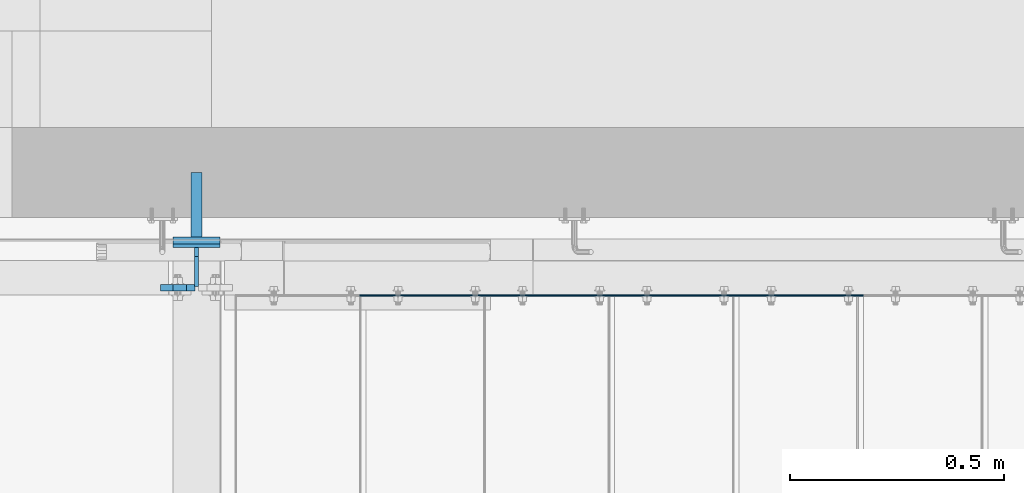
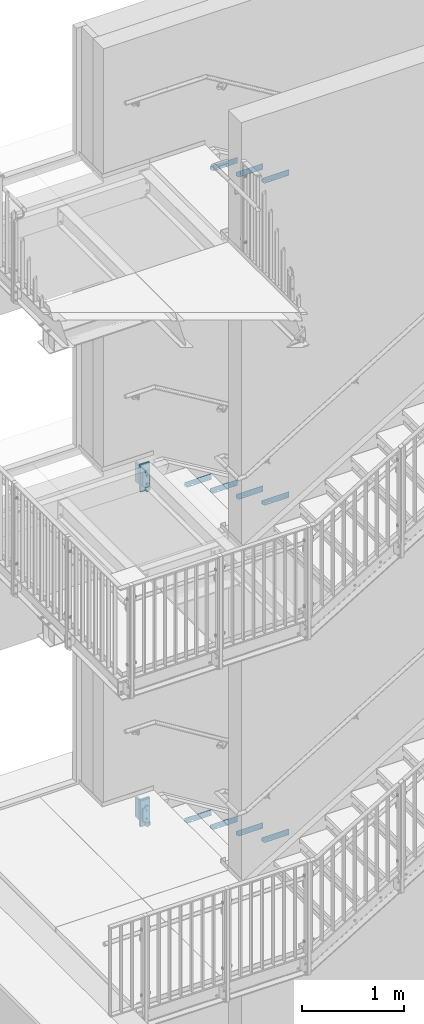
# One storey, part 58 of 410: 19 plates, 40 openings.
"""IFC2X3 building model written with IfcOpenShell, lengths in millimetres."""

from ifc_helpers import new_model, entity, si_unit, converted_unit, point, frame, frame_2d, origin, origin_with_axes, origin_2d_with_axis, place, context, project, spatial, polyline, circle_curve, line_curve, trimmed, segment, composite_curve, circle, outline, extrude, material, layer, layer_set, element, save


model = new_model("IFC2X3")

# Units and contexts
model_context = context("Model", 3, precision=1e-09, world=origin_with_axes())
ifc_project = project(units=[si_unit("LENGTHUNIT", "METRE", prefix="MILLI"), si_unit("AREAUNIT", "SQUARE_METRE"), si_unit("VOLUMEUNIT", "CUBIC_METRE"), converted_unit("PLANEANGLEUNIT", "DEGREE", entity("IfcPlaneAngleMeasure", 0.01745329), si_unit("PLANEANGLEUNIT", "RADIAN"), dimensions=[0, 0, 0, 0, 0, 0, 0])], contexts=[model_context])

# Site, building, storey
site_placement = place(None, origin_with_axes())
site = spatial("IfcSite", under=ifc_project, at=site_placement, Name="mKR Teilneubau & Sanierung BA1 - Ostfildern", CompositionType="ELEMENT")
building_placement = place(site_placement, origin_with_axes())
building = spatial("IfcBuilding", under=site, at=building_placement, Name="Struktur 1", CompositionType="ELEMENT")
storey_placement = place(building_placement, origin_with_axes())
storey = spatial("IfcBuildingStorey", under=building, at=storey_placement, Name="Default Storey", CompositionType="ELEMENT", Elevation=0.0)

# Plate, openings
ifc_material = material(Name="S235JR")
ifc_layer_1 = layer(ifc_material, 3.0)
ifc_layer_set_1 = layer_set([ifc_layer_1], Name="S235JR")
plate_1_placement = place(None, frame((-545.0, 18436.999999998, 7150.0), z_axis=(0.0, 1.0, 0.0), x_axis=(0.0, 0.0, -1.0)))
plate_1 = element("IfcPlate", 1, at=plate_1_placement, inside=storey, material=ifc_layer_set_1, Name="Grate_Step#3", ObjectType="Grate_Step#3", context=model_context, shape_type="SweptSolid", body=[
    extrude(outline(polyline([(0.0, 0.0), (70.0, 0.0), (70.0, 275.0), (40.0, 305.0), (0.0, 305.0), (0.0, 0.0)])), origin_with_axes(), (0.0, 0.0, 1.0), 3.0),
])
opening_1_placement = place(plate_1_placement, frame((55.0, 35.0, -0.5), z_axis=(0.0, 0.0, 1.0), x_axis=(0.0, 1.0, 0.0)))
element("IfcOpeningElement", 2, at=opening_1_placement, cuts=plate_1, ObjectType="Opening", context=model_context, shape_type="SweptSolid", body=[
    extrude(circle(Radius=7.001, at=origin_2d_with_axis()), origin(), (0.0, 0.0, 1.0), 4.0),
])
opening_2_placement = place(plate_1_placement, frame((55.0, 215.0, -0.5), z_axis=(0.0, 0.0, 1.0), x_axis=(0.0, 1.0, 0.0)))
element("IfcOpeningElement", 3, at=opening_2_placement, cuts=plate_1, ObjectType="Opening", context=model_context, shape_type="SweptSolid", body=[
    extrude(outline(composite_curve([segment(trimmed(line_curve((-9.5, -7.001), (1.0, 0.0), 19.0), [point((-9.5, -7.001))], [point((9.5, -7.001))], True, "CARTESIAN"), True, "CONTINUOUS"), segment(trimmed(circle_curve(frame_2d((9.5, 0.0), x_axis=(1.0, 0.0)), 7.001), [point((9.5, -7.001))], [point((9.5, 7.001))], True, "CARTESIAN"), True, "CONTINUOUS"), segment(trimmed(line_curve((9.5, 7.001), (-1.0, 0.0), 19.0), [point((9.5, 7.001))], [point((-9.5, 7.001))], True, "CARTESIAN"), True, "CONTINUOUS"), segment(trimmed(circle_curve(frame_2d((-9.5, 0.0), x_axis=(1.0, 0.0)), 7.001), [point((-9.5, 7.001))], [point((-9.5, -7.001))], True, "CARTESIAN"), True, "CONTINUOUS")], self_intersect=False)), origin(), (0.0, 0.0, 1.0), 4.0),
])

plate_2_placement = place(None, frame((-255.0, 18436.999999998, 6975.0), z_axis=(0.0, 1.0, 0.0), x_axis=(0.0, 0.0, -1.0)))
plate_2 = element("IfcPlate", 4, at=plate_2_placement, inside=storey, material=ifc_layer_set_1, Name="Grate_Step#3", ObjectType="Grate_Step#3", context=model_context, shape_type="SweptSolid", body=[
    extrude(outline(polyline([(0.0, 0.0), (70.0, 0.0), (70.0, 275.0), (40.0, 305.0), (0.0, 305.0), (0.0, 0.0)])), origin_with_axes(), (0.0, 0.0, 1.0), 3.0),
])
opening_3_placement = place(plate_2_placement, frame((55.0, 35.0, -0.5), z_axis=(0.0, 0.0, 1.0), x_axis=(0.0, 1.0, 0.0)))
element("IfcOpeningElement", 5, at=opening_3_placement, cuts=plate_2, ObjectType="Opening", context=model_context, shape_type="SweptSolid", body=[
    extrude(circle(Radius=7.001, at=origin_2d_with_axis()), origin(), (0.0, 0.0, 1.0), 4.0),
])
opening_4_placement = place(plate_2_placement, frame((55.0, 215.0, -0.5), z_axis=(0.0, 0.0, 1.0), x_axis=(0.0, 1.0, 0.0)))
element("IfcOpeningElement", 6, at=opening_4_placement, cuts=plate_2, ObjectType="Opening", context=model_context, shape_type="SweptSolid", body=[
    extrude(outline(composite_curve([segment(trimmed(line_curve((-9.5, -7.001), (1.0, 0.0), 19.0), [point((-9.5, -7.001))], [point((9.5, -7.001))], True, "CARTESIAN"), True, "CONTINUOUS"), segment(trimmed(circle_curve(frame_2d((9.5, 0.0), x_axis=(1.0, 0.0)), 7.001), [point((9.5, -7.001))], [point((9.5, 7.001))], True, "CARTESIAN"), True, "CONTINUOUS"), segment(trimmed(line_curve((9.5, 7.001), (-1.0, 0.0), 19.0), [point((9.5, 7.001))], [point((-9.5, 7.001))], True, "CARTESIAN"), True, "CONTINUOUS"), segment(trimmed(circle_curve(frame_2d((-9.5, 0.0), x_axis=(1.0, 0.0)), 7.001), [point((-9.5, 7.001))], [point((-9.5, -7.001))], True, "CARTESIAN"), True, "CONTINUOUS")], self_intersect=False)), origin(), (0.0, 0.0, 1.0), 4.0),
])

plate_3_placement = place(None, frame((-255.0, 18436.999999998, 3130.434783), z_axis=(0.0, 1.0, 0.0), x_axis=(0.0, 0.0, -1.0)))
plate_3 = element("IfcPlate", 7, at=plate_3_placement, inside=storey, material=ifc_layer_set_1, Name="Grate_Step#3", ObjectType="Grate_Step#3", context=model_context, shape_type="SweptSolid", body=[
    extrude(outline(polyline([(0.0, 0.0), (70.0, 0.0), (70.0, 275.0), (40.0, 305.0), (0.0, 305.0), (0.0, 0.0)])), origin_with_axes(), (0.0, 0.0, 1.0), 3.0),
])
opening_5_placement = place(plate_3_placement, frame((55.0, 215.0, -0.5), z_axis=(0.0, 0.0, 1.0), x_axis=(0.0, 1.0, 0.0)))
element("IfcOpeningElement", 8, at=opening_5_placement, cuts=plate_3, ObjectType="Opening", context=model_context, shape_type="SweptSolid", body=[
    extrude(outline(composite_curve([segment(trimmed(line_curve((-9.5, -7.001), (1.0, 0.0), 19.0), [point((-9.5, -7.001))], [point((9.5, -7.001))], True, "CARTESIAN"), True, "CONTINUOUS"), segment(trimmed(circle_curve(frame_2d((9.5, 0.0), x_axis=(1.0, 0.0)), 7.001), [point((9.5, -7.001))], [point((9.5, 7.001))], True, "CARTESIAN"), True, "CONTINUOUS"), segment(trimmed(line_curve((9.5, 7.001), (-1.0, 0.0), 19.0), [point((9.5, 7.001))], [point((-9.5, 7.001))], True, "CARTESIAN"), True, "CONTINUOUS"), segment(trimmed(circle_curve(frame_2d((-9.5, 0.0), x_axis=(1.0, 0.0)), 7.001), [point((-9.5, 7.001))], [point((-9.5, -7.001))], True, "CARTESIAN"), True, "CONTINUOUS")], self_intersect=False)), origin(), (0.0, 0.0, 1.0), 4.0),
])
opening_6_placement = place(plate_3_placement, frame((55.0, 35.0, -0.5), z_axis=(0.0, 0.0, 1.0), x_axis=(0.0, 1.0, 0.0)))
element("IfcOpeningElement", 9, at=opening_6_placement, cuts=plate_3, ObjectType="Opening", context=model_context, shape_type="SweptSolid", body=[
    extrude(circle(Radius=7.001, at=origin_2d_with_axis()), origin(), (0.0, 0.0, 1.0), 4.0),
])

plate_4_placement = place(None, frame((-545.0, 18436.999999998, 3304.3478265), z_axis=(0.0, 1.0, 0.0), x_axis=(0.0, 0.0, -1.0)))
plate_4 = element("IfcPlate", 10, at=plate_4_placement, inside=storey, material=ifc_layer_set_1, Name="Grate_Step#3", ObjectType="Grate_Step#3", context=model_context, shape_type="SweptSolid", body=[
    extrude(outline(polyline([(0.0, 0.0), (70.0, 0.0), (70.0, 275.0), (40.0, 305.0), (0.0, 305.0), (0.0, 0.0)])), origin_with_axes(), (0.0, 0.0, 1.0), 3.0),
])
opening_7_placement = place(plate_4_placement, frame((55.0, 35.0, -0.5), z_axis=(0.0, 0.0, 1.0), x_axis=(0.0, 1.0, 0.0)))
element("IfcOpeningElement", 11, at=opening_7_placement, cuts=plate_4, ObjectType="Opening", context=model_context, shape_type="SweptSolid", body=[
    extrude(circle(Radius=7.001, at=origin_2d_with_axis()), origin(), (0.0, 0.0, 1.0), 4.0),
])
opening_8_placement = place(plate_4_placement, frame((55.0, 215.0, -0.5), z_axis=(0.0, 0.0, 1.0), x_axis=(0.0, 1.0, 0.0)))
element("IfcOpeningElement", 12, at=opening_8_placement, cuts=plate_4, ObjectType="Opening", context=model_context, shape_type="SweptSolid", body=[
    extrude(outline(composite_curve([segment(trimmed(line_curve((-9.5, -7.001), (1.0, 0.0), 19.0), [point((-9.5, -7.001))], [point((9.5, -7.001))], True, "CARTESIAN"), True, "CONTINUOUS"), segment(trimmed(circle_curve(frame_2d((9.5, 0.0), x_axis=(1.0, 0.0)), 7.001), [point((9.5, -7.001))], [point((9.5, 7.001))], True, "CARTESIAN"), True, "CONTINUOUS"), segment(trimmed(line_curve((9.5, 7.001), (-1.0, 0.0), 19.0), [point((9.5, 7.001))], [point((-9.5, 7.001))], True, "CARTESIAN"), True, "CONTINUOUS"), segment(trimmed(circle_curve(frame_2d((-9.5, 0.0), x_axis=(1.0, 0.0)), 7.001), [point((-9.5, 7.001))], [point((-9.5, -7.001))], True, "CARTESIAN"), True, "CONTINUOUS")], self_intersect=False)), origin(), (0.0, 0.0, 1.0), 4.0),
])

plate_5_placement = place(None, frame((-835.0, 18436.999999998, 3478.26087), z_axis=(0.0, 1.0, 0.0), x_axis=(0.0, 0.0, -1.0)))
plate_5 = element("IfcPlate", 13, at=plate_5_placement, inside=storey, material=ifc_layer_set_1, Name="Grate_Step#3", ObjectType="Grate_Step#3", context=model_context, shape_type="SweptSolid", body=[
    extrude(outline(polyline([(0.0, 0.0), (70.0, 0.0), (70.0, 275.0), (40.0, 305.0), (0.0, 305.0), (0.0, 0.0)])), origin_with_axes(), (0.0, 0.0, 1.0), 3.0),
])
opening_9_placement = place(plate_5_placement, frame((55.0, 215.0, -0.5), z_axis=(0.0, 0.0, 1.0), x_axis=(0.0, 1.0, 0.0)))
element("IfcOpeningElement", 14, at=opening_9_placement, cuts=plate_5, ObjectType="Opening", context=model_context, shape_type="SweptSolid", body=[
    extrude(outline(composite_curve([segment(trimmed(line_curve((-9.5, -7.001), (1.0, 0.0), 19.0), [point((-9.5, -7.001))], [point((9.5, -7.001))], True, "CARTESIAN"), True, "CONTINUOUS"), segment(trimmed(circle_curve(frame_2d((9.5, 0.0), x_axis=(1.0, 0.0)), 7.001), [point((9.5, -7.001))], [point((9.5, 7.001))], True, "CARTESIAN"), True, "CONTINUOUS"), segment(trimmed(line_curve((9.5, 7.001), (-1.0, 0.0), 19.0), [point((9.5, 7.001))], [point((-9.5, 7.001))], True, "CARTESIAN"), True, "CONTINUOUS"), segment(trimmed(circle_curve(frame_2d((-9.5, 0.0), x_axis=(1.0, 0.0)), 7.001), [point((-9.5, 7.001))], [point((-9.5, -7.001))], True, "CARTESIAN"), True, "CONTINUOUS")], self_intersect=False)), origin(), (0.0, 0.0, 1.0), 4.0),
])
opening_10_placement = place(plate_5_placement, frame((55.0, 35.0, -0.5), z_axis=(0.0, 0.0, 1.0), x_axis=(0.0, 1.0, 0.0)))
element("IfcOpeningElement", 15, at=opening_10_placement, cuts=plate_5, ObjectType="Opening", context=model_context, shape_type="SweptSolid", body=[
    extrude(circle(Radius=7.001, at=origin_2d_with_axis()), origin(), (0.0, 0.0, 1.0), 4.0),
])

plate_6_placement = place(None, frame((-1125.0, 18436.999999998, 3652.1739135), z_axis=(0.0, 1.0, 0.0), x_axis=(0.0, 0.0, -1.0)))
plate_6 = element("IfcPlate", 16, at=plate_6_placement, inside=storey, material=ifc_layer_set_1, Name="Grate_Step#3", ObjectType="Grate_Step#3", context=model_context, shape_type="SweptSolid", body=[
    extrude(outline(polyline([(0.0, 0.0), (70.0, 0.0), (70.0, 275.0), (40.0, 305.0), (0.0, 305.0), (0.0, 0.0)])), origin_with_axes(), (0.0, 0.0, 1.0), 3.0),
])
opening_11_placement = place(plate_6_placement, frame((55.0, 35.0, -0.5), z_axis=(0.0, 0.0, 1.0), x_axis=(0.0, 1.0, 0.0)))
element("IfcOpeningElement", 17, at=opening_11_placement, cuts=plate_6, ObjectType="Opening", context=model_context, shape_type="SweptSolid", body=[
    extrude(circle(Radius=7.001, at=origin_2d_with_axis()), origin(), (0.0, 0.0, 1.0), 4.0),
])
opening_12_placement = place(plate_6_placement, frame((55.0, 215.0, -0.5), z_axis=(0.0, 0.0, 1.0), x_axis=(0.0, 1.0, 0.0)))
element("IfcOpeningElement", 18, at=opening_12_placement, cuts=plate_6, ObjectType="Opening", context=model_context, shape_type="SweptSolid", body=[
    extrude(outline(composite_curve([segment(trimmed(line_curve((-9.5, -7.001), (1.0, 0.0), 19.0), [point((-9.5, -7.001))], [point((9.5, -7.001))], True, "CARTESIAN"), True, "CONTINUOUS"), segment(trimmed(circle_curve(frame_2d((9.5, 0.0), x_axis=(1.0, 0.0)), 7.001), [point((9.5, -7.001))], [point((9.5, 7.001))], True, "CARTESIAN"), True, "CONTINUOUS"), segment(trimmed(line_curve((9.5, 7.001), (-1.0, 0.0), 19.0), [point((9.5, 7.001))], [point((-9.5, 7.001))], True, "CARTESIAN"), True, "CONTINUOUS"), segment(trimmed(circle_curve(frame_2d((-9.5, 0.0), x_axis=(1.0, 0.0)), 7.001), [point((-9.5, 7.001))], [point((-9.5, -7.001))], True, "CARTESIAN"), True, "CONTINUOUS")], self_intersect=False)), origin(), (0.0, 0.0, 1.0), 4.0),
])

plate_7_placement = place(None, frame((-255.0, 18436.999999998, -894.0), z_axis=(0.0, 1.0, 0.0), x_axis=(0.0, 0.0, -1.0)))
plate_7 = element("IfcPlate", 19, at=plate_7_placement, inside=storey, material=ifc_layer_set_1, Name="Grate_Step#3", ObjectType="Grate_Step#3", context=model_context, shape_type="SweptSolid", body=[
    extrude(outline(polyline([(0.0, 0.0), (70.0, 0.0), (70.0, 275.0), (40.0, 305.0), (0.0, 305.0), (0.0, 0.0)])), origin_with_axes(), (0.0, 0.0, 1.0), 3.0),
])
opening_13_placement = place(plate_7_placement, frame((55.0, 215.0, -0.5), z_axis=(0.0, 0.0, 1.0), x_axis=(0.0, 1.0, 0.0)))
element("IfcOpeningElement", 20, at=opening_13_placement, cuts=plate_7, ObjectType="Opening", context=model_context, shape_type="SweptSolid", body=[
    extrude(outline(composite_curve([segment(trimmed(line_curve((-9.5, -7.001), (1.0, 0.0), 19.0), [point((-9.5, -7.001))], [point((9.5, -7.001))], True, "CARTESIAN"), True, "CONTINUOUS"), segment(trimmed(circle_curve(frame_2d((9.5, 0.0), x_axis=(1.0, 0.0)), 7.001), [point((9.5, -7.001))], [point((9.5, 7.001))], True, "CARTESIAN"), True, "CONTINUOUS"), segment(trimmed(line_curve((9.5, 7.001), (-1.0, 0.0), 19.0), [point((9.5, 7.001))], [point((-9.5, 7.001))], True, "CARTESIAN"), True, "CONTINUOUS"), segment(trimmed(circle_curve(frame_2d((-9.5, 0.0), x_axis=(1.0, 0.0)), 7.001), [point((-9.5, 7.001))], [point((-9.5, -7.001))], True, "CARTESIAN"), True, "CONTINUOUS")], self_intersect=False)), origin(), (0.0, 0.0, 1.0), 4.0),
])
opening_14_placement = place(plate_7_placement, frame((55.0, 35.0, -0.5), z_axis=(0.0, 0.0, 1.0), x_axis=(0.0, 1.0, 0.0)))
element("IfcOpeningElement", 21, at=opening_14_placement, cuts=plate_7, ObjectType="Opening", context=model_context, shape_type="SweptSolid", body=[
    extrude(circle(Radius=7.001, at=origin_2d_with_axis()), origin(), (0.0, 0.0, 1.0), 4.0),
])

plate_8_placement = place(None, frame((-545.0, 18436.999999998, -715.2), z_axis=(0.0, 1.0, 0.0), x_axis=(0.0, 0.0, -1.0)))
plate_8 = element("IfcPlate", 22, at=plate_8_placement, inside=storey, material=ifc_layer_set_1, Name="Grate_Step#3", ObjectType="Grate_Step#3", context=model_context, shape_type="SweptSolid", body=[
    extrude(outline(polyline([(0.0, 0.0), (70.0, 0.0), (70.0, 275.0), (40.0, 305.0), (0.0, 305.0), (0.0, 0.0)])), origin_with_axes(), (0.0, 0.0, 1.0), 3.0),
])
opening_15_placement = place(plate_8_placement, frame((55.0, 35.0, -0.5), z_axis=(0.0, 0.0, 1.0), x_axis=(0.0, 1.0, 0.0)))
element("IfcOpeningElement", 23, at=opening_15_placement, cuts=plate_8, ObjectType="Opening", context=model_context, shape_type="SweptSolid", body=[
    extrude(circle(Radius=7.001, at=origin_2d_with_axis()), origin(), (0.0, 0.0, 1.0), 4.0),
])
opening_16_placement = place(plate_8_placement, frame((55.0, 215.0, -0.5), z_axis=(0.0, 0.0, 1.0), x_axis=(0.0, 1.0, 0.0)))
element("IfcOpeningElement", 24, at=opening_16_placement, cuts=plate_8, ObjectType="Opening", context=model_context, shape_type="SweptSolid", body=[
    extrude(outline(composite_curve([segment(trimmed(line_curve((-9.5, -7.001), (1.0, 0.0), 19.0), [point((-9.5, -7.001))], [point((9.5, -7.001))], True, "CARTESIAN"), True, "CONTINUOUS"), segment(trimmed(circle_curve(frame_2d((9.5, 0.0), x_axis=(1.0, 0.0)), 7.001), [point((9.5, -7.001))], [point((9.5, 7.001))], True, "CARTESIAN"), True, "CONTINUOUS"), segment(trimmed(line_curve((9.5, 7.001), (-1.0, 0.0), 19.0), [point((9.5, 7.001))], [point((-9.5, 7.001))], True, "CARTESIAN"), True, "CONTINUOUS"), segment(trimmed(circle_curve(frame_2d((-9.5, 0.0), x_axis=(1.0, 0.0)), 7.001), [point((-9.5, 7.001))], [point((-9.5, -7.001))], True, "CARTESIAN"), True, "CONTINUOUS")], self_intersect=False)), origin(), (0.0, 0.0, 1.0), 4.0),
])

plate_9_placement = place(None, frame((-835.0, 18436.999999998, -536.4), z_axis=(0.0, 1.0, 0.0), x_axis=(0.0, 0.0, -1.0)))
plate_9 = element("IfcPlate", 25, at=plate_9_placement, inside=storey, material=ifc_layer_set_1, Name="Grate_Step#3", ObjectType="Grate_Step#3", context=model_context, shape_type="SweptSolid", body=[
    extrude(outline(polyline([(0.0, 0.0), (70.0, 0.0), (70.0, 275.0), (40.0, 305.0), (0.0, 305.0), (0.0, 0.0)])), origin_with_axes(), (0.0, 0.0, 1.0), 3.0),
])
opening_17_placement = place(plate_9_placement, frame((55.0, 35.0, -0.5), z_axis=(0.0, 0.0, 1.0), x_axis=(0.0, 1.0, 0.0)))
element("IfcOpeningElement", 26, at=opening_17_placement, cuts=plate_9, ObjectType="Opening", context=model_context, shape_type="SweptSolid", body=[
    extrude(circle(Radius=7.001, at=origin_2d_with_axis()), origin(), (0.0, 0.0, 1.0), 4.0),
])
opening_18_placement = place(plate_9_placement, frame((55.0, 215.0, -0.5), z_axis=(0.0, 0.0, 1.0), x_axis=(0.0, 1.0, 0.0)))
element("IfcOpeningElement", 27, at=opening_18_placement, cuts=plate_9, ObjectType="Opening", context=model_context, shape_type="SweptSolid", body=[
    extrude(outline(composite_curve([segment(trimmed(line_curve((-9.5, -7.001), (1.0, 0.0), 19.0), [point((-9.5, -7.001))], [point((9.5, -7.001))], True, "CARTESIAN"), True, "CONTINUOUS"), segment(trimmed(circle_curve(frame_2d((9.5, 0.0), x_axis=(1.0, 0.0)), 7.001), [point((9.5, -7.001))], [point((9.5, 7.001))], True, "CARTESIAN"), True, "CONTINUOUS"), segment(trimmed(line_curve((9.5, 7.001), (-1.0, 0.0), 19.0), [point((9.5, 7.001))], [point((-9.5, 7.001))], True, "CARTESIAN"), True, "CONTINUOUS"), segment(trimmed(circle_curve(frame_2d((-9.5, 0.0), x_axis=(1.0, 0.0)), 7.001), [point((-9.5, 7.001))], [point((-9.5, -7.001))], True, "CARTESIAN"), True, "CONTINUOUS")], self_intersect=False)), origin(), (0.0, 0.0, 1.0), 4.0),
])

plate_10_placement = place(None, frame((-1125.0, 18436.999999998, -357.6), z_axis=(0.0, 1.0, 0.0), x_axis=(0.0, 0.0, -1.0)))
plate_10 = element("IfcPlate", 28, at=plate_10_placement, inside=storey, material=ifc_layer_set_1, Name="Grate_Step#3", ObjectType="Grate_Step#3", context=model_context, shape_type="SweptSolid", body=[
    extrude(outline(polyline([(0.0, 0.0), (70.0, 0.0), (70.0, 275.0), (40.0, 305.0), (0.0, 305.0), (0.0, 0.0)])), origin_with_axes(), (0.0, 0.0, 1.0), 3.0),
])
opening_19_placement = place(plate_10_placement, frame((55.0, 215.0, -0.5), z_axis=(0.0, 0.0, 1.0), x_axis=(0.0, 1.0, 0.0)))
element("IfcOpeningElement", 29, at=opening_19_placement, cuts=plate_10, ObjectType="Opening", context=model_context, shape_type="SweptSolid", body=[
    extrude(outline(composite_curve([segment(trimmed(line_curve((-9.5, -7.001), (1.0, 0.0), 19.0), [point((-9.5, -7.001))], [point((9.5, -7.001))], True, "CARTESIAN"), True, "CONTINUOUS"), segment(trimmed(circle_curve(frame_2d((9.5, 0.0), x_axis=(1.0, 0.0)), 7.001), [point((9.5, -7.001))], [point((9.5, 7.001))], True, "CARTESIAN"), True, "CONTINUOUS"), segment(trimmed(line_curve((9.5, 7.001), (-1.0, 0.0), 19.0), [point((9.5, 7.001))], [point((-9.5, 7.001))], True, "CARTESIAN"), True, "CONTINUOUS"), segment(trimmed(circle_curve(frame_2d((-9.5, 0.0), x_axis=(1.0, 0.0)), 7.001), [point((-9.5, 7.001))], [point((-9.5, -7.001))], True, "CARTESIAN"), True, "CONTINUOUS")], self_intersect=False)), origin(), (0.0, 0.0, 1.0), 4.0),
])
opening_20_placement = place(plate_10_placement, frame((55.0, 35.0, -0.5), z_axis=(0.0, 0.0, 1.0), x_axis=(0.0, 1.0, 0.0)))
element("IfcOpeningElement", 30, at=opening_20_placement, cuts=plate_10, ObjectType="Opening", context=model_context, shape_type="SweptSolid", body=[
    extrude(circle(Radius=7.001, at=origin_2d_with_axis()), origin(), (0.0, 0.0, 1.0), 4.0),
])

ifc_layer_2 = layer(ifc_material, 15.0)
ifc_layer_set_2 = layer_set([ifc_layer_2], Name="S235JR")
plate_11_placement = place(None, frame((-1813.948531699, 18448.999999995, 3929.300000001), z_axis=(0.0, -1.0, 0.0), x_axis=(-1.0, 0.0, 0.0)))
plate_11 = element("IfcPlate", 31, at=plate_11_placement, inside=storey, material=ifc_layer_set_2, Name="LugPlate#1", ObjectType="LugPlate#1", context=model_context, shape_type="SweptSolid", body=[
    extrude(outline(polyline([(0.0, 0.0), (80.0, 0.0), (80.0, 198.6), (0.0, 198.6), (0.0, 0.0)])), origin_with_axes(), (0.0, 0.0, -1.0), 15.0),
])
opening_21_placement = place(plate_11_placement, frame((0.0, 0.0, 0.01), z_axis=(0.0, 0.0, 1.0), x_axis=(1.0, 0.0, 0.0)))
element("IfcOpeningElement", 32, at=opening_21_placement, cuts=plate_11, ObjectType="Opening", context=model_context, shape_type="SweptSolid", body=[
    extrude(outline(polyline([(0.0, 0.0), (20.0, 0.0), (0.0, 20.0), (0.0, 0.0)])), origin(), (0.0, 0.0, -1.0), 15.02),
])
opening_22_placement = place(plate_11_placement, frame((0.0, 198.6, 0.01), z_axis=(0.0, 0.0, 1.0), x_axis=(0.0, -1.0, 0.0)))
element("IfcOpeningElement", 33, at=opening_22_placement, cuts=plate_11, ObjectType="Opening", context=model_context, shape_type="SweptSolid", body=[
    extrude(outline(polyline([(0.0, 0.0), (20.0, 0.0), (0.0, 20.0), (0.0, 0.0)])), origin(), (0.0, 0.0, -1.0), 15.02),
])
opening_23_placement = place(plate_11_placement, frame((99.857709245, 209.301, -15.1), z_axis=(0.0, 0.0, -1.0), x_axis=(0.0, -1.0, 0.0)))
element("IfcOpeningElement", 34, at=opening_23_placement, cuts=plate_11, ObjectType="Opening", context=model_context, shape_type="SweptSolid", body=[
    extrude(outline(polyline([(0.0, 0.0), (30.002, 0.0), (30.002, 48.808709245), (0.0, 48.808709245), (0.0, 0.0)])), origin(), (0.0, 0.0, -1.0), 15.2),
])
opening_24_placement = place(plate_11_placement, frame((95.314579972, 19.301, -15.1), z_axis=(0.0, 0.0, -1.0), x_axis=(0.0, -1.0, 0.0)))
element("IfcOpeningElement", 35, at=opening_24_placement, cuts=plate_11, ObjectType="Opening", context=model_context, shape_type="SweptSolid", body=[
    extrude(outline(polyline([(0.0, 0.0), (30.001999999, 0.0), (30.001999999, 44.265579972), (0.0, 44.265579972), (0.0, 0.0)])), origin(), (0.0, 0.0, -1.0), 15.2),
])
opening_25_placement = place(plate_11_placement, frame((40.0, 49.300000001, -15.5), z_axis=(0.0, 0.0, 1.0), x_axis=(1.0, 0.0, 0.0)))
element("IfcOpeningElement", 36, at=opening_25_placement, cuts=plate_11, ObjectType="Opening", context=model_context, shape_type="SweptSolid", body=[
    extrude(circle(Radius=9.001, at=frame_2d((0.0, 100.0), x_axis=(1.0, 0.0))), origin(), (0.0, 0.0, 1.0), 16.0),
])
opening_26_placement = place(plate_11_placement, frame((40.0, 49.300000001, -15.5), z_axis=(0.0, 0.0, 1.0), x_axis=(1.0, 0.0, 0.0)))
element("IfcOpeningElement", 37, at=opening_26_placement, cuts=plate_11, ObjectType="Opening", context=model_context, shape_type="SweptSolid", body=[
    extrude(circle(Radius=9.001, at=origin_2d_with_axis()), origin(), (0.0, 0.0, 1.0), 16.0),
])

plate_12_placement = place(None, frame((-1813.948531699, 18448.999999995, -70.699999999), z_axis=(0.0, -1.0, 0.0), x_axis=(-1.0, 0.0, 0.0)))
plate_12 = element("IfcPlate", 38, at=plate_12_placement, inside=storey, material=ifc_layer_set_2, Name="LugPlate#1", ObjectType="LugPlate#1", context=model_context, shape_type="SweptSolid", body=[
    extrude(outline(polyline([(0.0, 0.0), (80.0, 0.0), (80.0, 198.6), (0.0, 198.6), (0.0, 0.0)])), origin_with_axes(), (0.0, 0.0, -1.0), 15.0),
])
opening_27_placement = place(plate_12_placement, frame((0.0, 0.0, 0.01), z_axis=(0.0, 0.0, 1.0), x_axis=(1.0, 0.0, 0.0)))
element("IfcOpeningElement", 39, at=opening_27_placement, cuts=plate_12, ObjectType="Opening", context=model_context, shape_type="SweptSolid", body=[
    extrude(outline(polyline([(0.0, 0.0), (20.0, 0.0), (0.0, 20.0), (0.0, 0.0)])), origin(), (0.0, 0.0, -1.0), 15.02),
])
opening_28_placement = place(plate_12_placement, frame((0.0, 198.6, 0.01), z_axis=(0.0, 0.0, 1.0), x_axis=(0.0, -1.0, 0.0)))
element("IfcOpeningElement", 40, at=opening_28_placement, cuts=plate_12, ObjectType="Opening", context=model_context, shape_type="SweptSolid", body=[
    extrude(outline(polyline([(0.0, 0.0), (20.0, 0.0), (0.0, 20.0), (0.0, 0.0)])), origin(), (0.0, 0.0, -1.0), 15.02),
])
opening_29_placement = place(plate_12_placement, frame((99.857709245, 209.301, -15.1), z_axis=(0.0, 0.0, -1.0), x_axis=(0.0, -1.0, 0.0)))
element("IfcOpeningElement", 41, at=opening_29_placement, cuts=plate_12, ObjectType="Opening", context=model_context, shape_type="SweptSolid", body=[
    extrude(outline(polyline([(0.0, 0.0), (30.002, 0.0), (30.002, 48.808709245), (0.0, 48.808709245), (0.0, 0.0)])), origin(), (0.0, 0.0, -1.0), 15.2),
])
opening_30_placement = place(plate_12_placement, frame((95.314579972, 19.301, -15.1), z_axis=(0.0, 0.0, -1.0), x_axis=(0.0, -1.0, 0.0)))
element("IfcOpeningElement", 42, at=opening_30_placement, cuts=plate_12, ObjectType="Opening", context=model_context, shape_type="SweptSolid", body=[
    extrude(outline(polyline([(0.0, 0.0), (30.001999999, 0.0), (30.001999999, 44.265579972), (0.0, 44.265579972), (0.0, 0.0)])), origin(), (0.0, 0.0, -1.0), 15.2),
])
opening_31_placement = place(plate_12_placement, frame((40.0, 49.300000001, -15.5), z_axis=(0.0, 0.0, 1.0), x_axis=(1.0, 0.0, 0.0)))
element("IfcOpeningElement", 43, at=opening_31_placement, cuts=plate_12, ObjectType="Opening", context=model_context, shape_type="SweptSolid", body=[
    extrude(circle(Radius=9.001, at=frame_2d((0.0, 100.0), x_axis=(1.0, 0.0))), origin(), (0.0, 0.0, 1.0), 16.0),
])
opening_32_placement = place(plate_12_placement, frame((40.0, 49.300000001, -15.5), z_axis=(0.0, 0.0, 1.0), x_axis=(1.0, 0.0, 0.0)))
element("IfcOpeningElement", 44, at=opening_32_placement, cuts=plate_12, ObjectType="Opening", context=model_context, shape_type="SweptSolid", body=[
    extrude(circle(Radius=9.001, at=origin_2d_with_axis()), origin(), (0.0, 0.0, 1.0), 16.0),
])

# Plate, opening
ifc_layer_3 = layer(ifc_material, 25.0)
ifc_layer_set_3 = layer_set([ifc_layer_3], Name="S235JR")
plate_13_placement = place(None, frame((-1809.9985317, 18574.99935555, 3780.0), z_axis=(0.0, -1.0, 0.0), x_axis=(1.0, 0.0, 0.0)))
plate_13 = element("IfcPlate", 45, at=plate_13_placement, inside=storey, material=ifc_layer_set_3, Name="-", ObjectType="-", context=model_context, shape_type="SweptSolid", body=[
    extrude(outline(polyline([(-55.0, -160.0), (55.0, -160.0), (55.0, 160.0), (-55.0, 160.0), (-55.0, -160.0)])), origin_with_axes(), (0.0, 0.0, 1.0), 25.0),
])
opening_33_placement = place(plate_13_placement, frame((-55.001, 160.0, 25.0), z_axis=(1.0, 0.0, 0.0), x_axis=(0.0, -1.0, 0.0)))
element("IfcOpeningElement", 46, at=opening_33_placement, cuts=plate_13, ObjectType="Opening", context=model_context, shape_type="SweptSolid", body=[
    extrude(outline(polyline([(0.0, 0.0), (9.0, 0.0), (0.0, 9.0), (0.0, 0.0)])), origin(), (0.0, 0.0, 1.0), 110.022),
])

# Plate
plate_14_placement = place(None, frame((-1822.4985317, 18650.000177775, 3745.0), z_axis=(1.0, 0.0, 0.0), x_axis=(0.0, 1.0, 0.0)))
element("IfcPlate", 47, at=plate_14_placement, inside=storey, material=ifc_layer_set_3, Name="-", ObjectType="-", context=model_context, shape_type="SweptSolid", body=[
    extrude(outline(polyline([(-75.0, -115.0), (75.0, -115.0), (75.0, 115.0), (-75.0, 115.0), (-75.0, -115.0)])), origin_with_axes(), (0.0, 0.0, 1.0), 25.0),
])

# Plate, openings
ifc_layer_4 = layer(ifc_material, 10.0)
ifc_layer_set_4 = layer_set([ifc_layer_4], Name="S235JR")
plate_15_placement = place(None, frame((-1814.9985317, 18504.99935555, 3675.0), z_axis=(1.0, 0.0, 0.0), x_axis=(0.0, 1.0, 0.0)))
plate_15 = element("IfcPlate", 48, at=plate_15_placement, inside=storey, material=ifc_layer_set_4, Name="-", ObjectType="-", context=model_context, shape_type="SweptSolid", body=[
    extrude(outline(polyline([(-45.0, -45.0), (45.0, -45.0), (45.0, 45.0), (-45.0, 45.0), (-45.0, -45.0)])), origin_with_axes(), (0.0, 0.0, 1.0), 10.0),
])
opening_34_placement = place(plate_15_placement, frame((0.0, 0.0, -0.01), z_axis=(0.0, 0.0, 1.0), x_axis=(1.0, 0.0, 0.0)))
element("IfcOpeningElement", 49, at=opening_34_placement, cuts=plate_15, ObjectType="Opening", context=model_context, shape_type="SweptSolid", body=[
    extrude(outline(polyline([(-45.0, -45.0), (5.0, -45.0), (-45.0, 5.0), (-45.0, -45.0)])), origin(), (0.0, 0.0, 1.0), 10.02),
])
opening_35_placement = place(plate_15_placement, frame((0.0, 0.0, -0.01), z_axis=(0.0, 0.0, 1.0), x_axis=(1.0, 0.0, 0.0)))
element("IfcOpeningElement", 50, at=opening_35_placement, cuts=plate_15, ObjectType="Opening", context=model_context, shape_type="SweptSolid", body=[
    extrude(outline(polyline([(45.0, 45.0), (25.0, 45.0), (45.0, 25.0), (45.0, 45.0)])), origin(), (0.0, 0.0, 1.0), 10.02),
])

# Plate, opening
plate_16_placement = place(None, frame((-1809.9985317, 18574.99935555, -220.0), z_axis=(0.0, -1.0, 0.0), x_axis=(1.0, 0.0, 0.0)))
plate_16 = element("IfcPlate", 51, at=plate_16_placement, inside=storey, material=ifc_layer_set_3, Name="-", ObjectType="-", context=model_context, shape_type="SweptSolid", body=[
    extrude(outline(polyline([(-55.0, -160.0), (55.0, -160.0), (55.0, 160.0), (-55.0, 160.0), (-55.0, -160.0)])), origin_with_axes(), (0.0, 0.0, 1.0), 25.0),
])
opening_36_placement = place(plate_16_placement, frame((-55.001, 160.0, 25.0), z_axis=(1.0, 0.0, 0.0), x_axis=(0.0, -1.0, 0.0)))
element("IfcOpeningElement", 52, at=opening_36_placement, cuts=plate_16, ObjectType="Opening", context=model_context, shape_type="SweptSolid", body=[
    extrude(outline(polyline([(0.0, 0.0), (9.0, 0.0), (0.0, 9.0), (0.0, 0.0)])), origin(), (0.0, 0.0, 1.0), 110.022),
])

# Plate
plate_17_placement = place(None, frame((-1822.4985317, 18650.000177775, -255.0), z_axis=(1.0, 0.0, 0.0), x_axis=(0.0, 1.0, 0.0)))
element("IfcPlate", 53, at=plate_17_placement, inside=storey, material=ifc_layer_set_3, Name="-", ObjectType="-", context=model_context, shape_type="SweptSolid", body=[
    extrude(outline(polyline([(-75.0, -115.0), (75.0, -115.0), (75.0, 115.0), (-75.0, 115.0), (-75.0, -115.0)])), origin_with_axes(), (0.0, 0.0, 1.0), 25.0),
])

# Plate, openings
plate_18_placement = place(None, frame((-1814.9985317, 18504.99935555, -325.0), z_axis=(1.0, 0.0, 0.0), x_axis=(0.0, 1.0, 0.0)))
plate_18 = element("IfcPlate", 54, at=plate_18_placement, inside=storey, material=ifc_layer_set_4, Name="-", ObjectType="-", context=model_context, shape_type="SweptSolid", body=[
    extrude(outline(polyline([(-45.0, -45.0), (45.0, -45.0), (45.0, 45.0), (-45.0, 45.0), (-45.0, -45.0)])), origin_with_axes(), (0.0, 0.0, 1.0), 10.0),
])
opening_37_placement = place(plate_18_placement, frame((0.0, 0.0, -0.01), z_axis=(0.0, 0.0, 1.0), x_axis=(1.0, 0.0, 0.0)))
element("IfcOpeningElement", 55, at=opening_37_placement, cuts=plate_18, ObjectType="Opening", context=model_context, shape_type="SweptSolid", body=[
    extrude(outline(polyline([(-45.0, -45.0), (5.0, -45.0), (-45.0, 5.0), (-45.0, -45.0)])), origin(), (0.0, 0.0, 1.0), 10.02),
])
opening_38_placement = place(plate_18_placement, frame((0.0, 0.0, -0.01), z_axis=(0.0, 0.0, 1.0), x_axis=(1.0, 0.0, 0.0)))
element("IfcOpeningElement", 56, at=opening_38_placement, cuts=plate_18, ObjectType="Opening", context=model_context, shape_type="SweptSolid", body=[
    extrude(outline(polyline([(45.0, 45.0), (25.0, 45.0), (45.0, 25.0), (45.0, 45.0)])), origin(), (0.0, 0.0, 1.0), 10.02),
])

plate_19_placement = place(None, frame((-835.0, 18436.999999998, 7325.0), z_axis=(0.0, 1.0, 0.0), x_axis=(0.0, 0.0, -1.0)))
plate_19 = element("IfcPlate", 57, at=plate_19_placement, inside=storey, material=ifc_layer_set_1, Name="Grate_Step#3", ObjectType="Grate_Step#3", context=model_context, shape_type="SweptSolid", body=[
    extrude(outline(polyline([(0.0, 0.0), (70.0, 0.0), (70.0, 275.0), (40.0, 305.0), (0.0, 305.0), (0.0, 0.0)])), origin_with_axes(), (0.0, 0.0, 1.0), 3.0),
])
opening_39_placement = place(plate_19_placement, frame((55.0, 35.0, -0.5), z_axis=(0.0, 0.0, 1.0), x_axis=(0.0, 1.0, 0.0)))
element("IfcOpeningElement", 58, at=opening_39_placement, cuts=plate_19, ObjectType="Opening", context=model_context, shape_type="SweptSolid", body=[
    extrude(circle(Radius=7.001, at=origin_2d_with_axis()), origin(), (0.0, 0.0, 1.0), 4.0),
])
opening_40_placement = place(plate_19_placement, frame((55.0, 215.0, -0.5), z_axis=(0.0, 0.0, 1.0), x_axis=(0.0, 1.0, 0.0)))
element("IfcOpeningElement", 59, at=opening_40_placement, cuts=plate_19, ObjectType="Opening", context=model_context, shape_type="SweptSolid", body=[
    extrude(outline(composite_curve([segment(trimmed(line_curve((-9.5, -7.001), (1.0, 0.0), 19.0), [point((-9.5, -7.001))], [point((9.5, -7.001))], True, "CARTESIAN"), True, "CONTINUOUS"), segment(trimmed(circle_curve(frame_2d((9.5, 0.0), x_axis=(1.0, 0.0)), 7.001), [point((9.5, -7.001))], [point((9.5, 7.001))], True, "CARTESIAN"), True, "CONTINUOUS"), segment(trimmed(line_curve((9.5, 7.001), (-1.0, 0.0), 19.0), [point((9.5, 7.001))], [point((-9.5, 7.001))], True, "CARTESIAN"), True, "CONTINUOUS"), segment(trimmed(circle_curve(frame_2d((-9.5, 0.0), x_axis=(1.0, 0.0)), 7.001), [point((-9.5, 7.001))], [point((-9.5, -7.001))], True, "CARTESIAN"), True, "CONTINUOUS")], self_intersect=False)), origin(), (0.0, 0.0, 1.0), 4.0),
])

save(model, "model.ifc")
